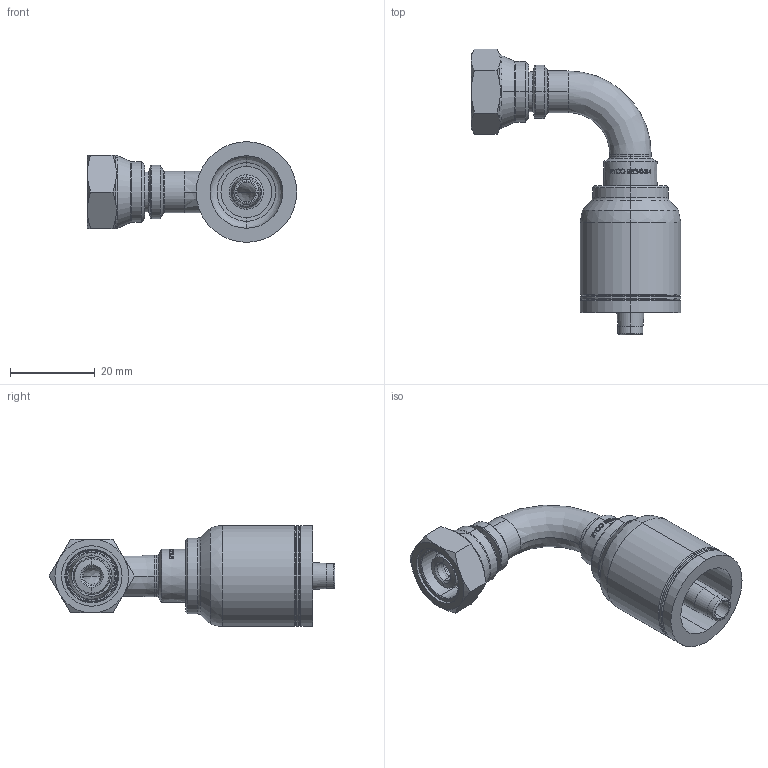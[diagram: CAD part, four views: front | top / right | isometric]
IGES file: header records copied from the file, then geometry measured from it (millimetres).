
Start section: SolidWorks IGES file using analytic representation for surfaces
Global section: file name: X:\SolidWorks\Solidworks models-to be checked\Customer Part Models\T252-0414.IGS; native system: SolidWorks 2010; preprocessor: SolidWorks 2010; author: MKitchenham; date: 120322.153338; units: millimetre
Bounding box: 49.59 x 67.6 x 23.82 mm (x, y, z)
Volume: 12011.6 mm3; surface area: 9490.6 mm2
Topology: 3 solids, 3 shells, 315 faces, 749 edges, 464 vertices
Faces by surface type: revolution 165, plane 79, bspline 71
